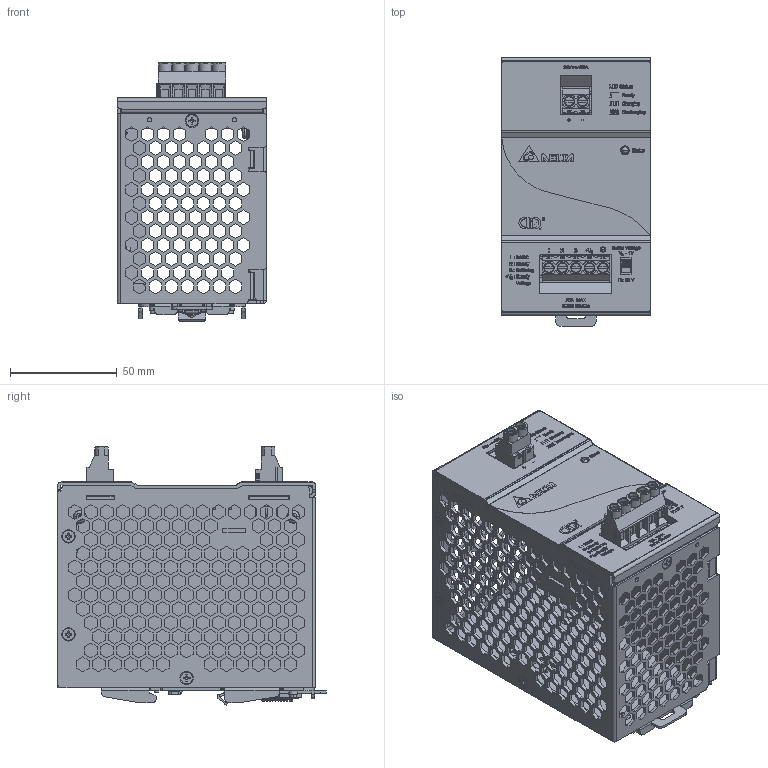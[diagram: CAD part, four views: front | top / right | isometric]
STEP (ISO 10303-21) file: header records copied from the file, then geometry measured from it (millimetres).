
FILE_DESCRIPTION((''),'2;1');
FILE_NAME('EOE20010408_ASM','2012-08-16T',('Manop.Pr'),(''),'PRO/ENGINEER BY PARAMETRIC TECHNOLOGY CORPORATION, 2010180','PRO/ENGINEER BY PARAMETRIC TECHNOLOGY CORPORATION, 2010180','');
FILE_SCHEMA(('CONFIG_CONTROL_DESIGN','SHAPE_APPEARANCE_LAYERS_GROUPS'));
Products named in the file (25): 331064530506; 331064530506_A_STUD; 331064530506_ASM; 331064520202; 330312980000; 326355130000; 324490750000; 3268190300; 2958051502_PWB_MAIN; 3000052333_SLIDE_SWITCH; ASSY_PWB_EOE20010408_ASM; 2968138302_DCT-1383; 2968149700_DCT-1497; 3076623046; 296812150000_DCT-1215; 3073461746_CN2; EE_LED_2300221331; ASSY_PWB_DCT-1383_ASM; 3461303000; 3460088100; 3462026200; ASSY_LATCH_50X100_ASM; 3100300600; 3100020600; EOE20010408_ASM
Assembly tree (34 placements, depth 3):
  EOE20010408_ASM
    331064530506_ASM
      331064530506
      331064530506_A_STUD  x2
    331064520202
    330312980000
    326355130000
    324490750000
    3268190300
    ASSY_PWB_EOE20010408_ASM
      2958051502_PWB_MAIN
      3000052333_SLIDE_SWITCH
    ASSY_PWB_DCT-1383_ASM
      2968138302_DCT-1383
      2968149700_DCT-1497
      3076623046
      296812150000_DCT-1215
      3073461746_CN2
      EE_LED_2300221331
    ASSY_LATCH_50X100_ASM
      3461303000
      3460088100
      3462026200
    3100300600  x2
    3100020600  x9
Bounding box: 70.1 x 126 x 121.24 mm (x, y, z)
Volume: 114206.4 mm3; surface area: 194025.2 mm2
Topology: 32 solids, 32 shells, 8075 faces, 22140 edges, 14418 vertices
Faces by surface type: plane 5237, extrusion 1734, cylinder 826, cone 136, bspline 110, torus 32
Entity records: 319311 total; most frequent: CARTESIAN_POINT 61752, ORIENTED_EDGE 42212, DIRECTION 32701, PRESENTATION_STYLE_ASSIGNMENT 21379, STYLED_ITEM 21129, CURVE_STYLE 21106, EDGE_CURVE 21106, VECTOR 17575
